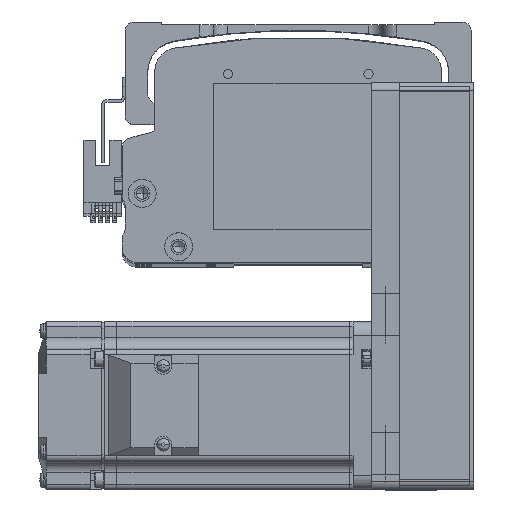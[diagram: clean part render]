
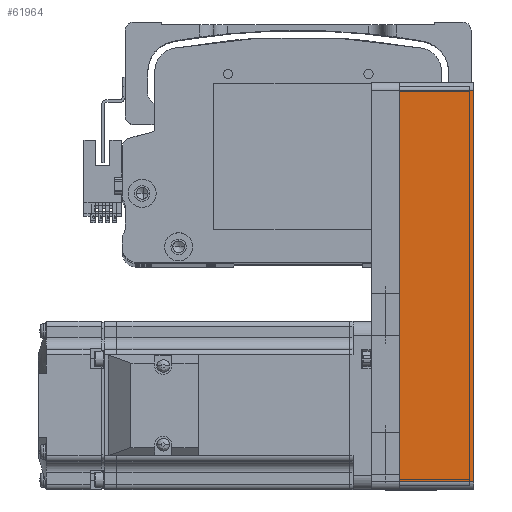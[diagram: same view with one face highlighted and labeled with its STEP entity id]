
A CAD part, top view. The second image highlights one B-rep face of the part: STEP entity #61964.
In plain terms, the highlighted planar face has unit normal (0, 0, 1) as drawn and (0, -1, 0) by its records, which use the part's own axes.
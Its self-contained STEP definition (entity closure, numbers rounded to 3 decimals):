
#2810 = EDGE_CURVE ( 'NONE', #80365, #3244, #55420, .T. ) ;
#3244 = VERTEX_POINT ( 'NONE', #70744 ) ;
#4485 = EDGE_CURVE ( 'NONE', #58597, #80365, #77908, .T. ) ;
#4772 = CARTESIAN_POINT ( 'NONE',  ( 72.5, -30., 26.5 ) ) ;
#11384 = CARTESIAN_POINT ( 'NONE',  ( -69.5, -30., 26.5 ) ) ;
#13730 = VECTOR ( 'NONE', #49283, 1000. ) ;
#17157 = VERTEX_POINT ( 'NONE', #34798 ) ;
#23127 = EDGE_CURVE ( 'NONE', #17157, #58597, #51478, .T. ) ;
#25872 = DIRECTION ( 'NONE',  ( 0., 1., 0. ) ) ;
#34798 = CARTESIAN_POINT ( 'NONE',  ( -69.5, -30., 26.5 ) ) ;
#39750 = ORIENTED_EDGE ( 'NONE', *, *, #56990, .F. ) ;
#41558 = DIRECTION ( 'NONE',  ( 1., 0., 0. ) ) ;
#46826 = CARTESIAN_POINT ( 'NONE',  ( 69.5, -30., 26.5 ) ) ;
#49283 = DIRECTION ( 'NONE',  ( 1., 0., 0. ) ) ;
#49478 = VECTOR ( 'NONE', #75044, 1000. ) ;
#51478 = LINE ( 'NONE', #11384, #49478 ) ;
#55420 = LINE ( 'NONE', #46826, #72313 ) ;
#56990 = EDGE_CURVE ( 'NONE', #17157, #3244, #62472, .T. ) ;
#58597 = VERTEX_POINT ( 'NONE', #61295 ) ;
#59806 = FACE_OUTER_BOUND ( 'NONE', #79106, .T. ) ;
#59991 = CARTESIAN_POINT ( 'NONE',  ( 69.5, -30., 0. ) ) ;
#61033 = VECTOR ( 'NONE', #41558, 1000. ) ;
#61295 = CARTESIAN_POINT ( 'NONE',  ( -69.5, -30., 0. ) ) ;
#61964 = ADVANCED_FACE ( 'NONE', ( #59806 ), #70063, .F. ) ;
#62472 = LINE ( 'NONE', #4772, #13730 ) ;
#63957 = CARTESIAN_POINT ( 'NONE',  ( 72.5, -30., 26.5 ) ) ;
#70063 = PLANE ( 'NONE',  #76074 ) ;
#70329 = DIRECTION ( 'NONE',  ( -1., 0., 0. ) ) ;
#70410 = ORIENTED_EDGE ( 'NONE', *, *, #2810, .T. ) ;
#70744 = CARTESIAN_POINT ( 'NONE',  ( 69.5, -30., 26.5 ) ) ;
#72313 = VECTOR ( 'NONE', #78214, 1000. ) ;
#72959 = CARTESIAN_POINT ( 'NONE',  ( 72.5, -30., 0. ) ) ;
#75044 = DIRECTION ( 'NONE',  ( 0., 0., -1. ) ) ;
#76074 = AXIS2_PLACEMENT_3D ( 'NONE', #63957, #25872, #70329 ) ;
#77908 = LINE ( 'NONE', #72959, #61033 ) ;
#78214 = DIRECTION ( 'NONE',  ( 0., 0., 1. ) ) ;
#79106 = EDGE_LOOP ( 'NONE', ( #82028, #70410, #39750, #80180 ) ) ;
#80180 = ORIENTED_EDGE ( 'NONE', *, *, #23127, .T. ) ;
#80365 = VERTEX_POINT ( 'NONE', #59991 ) ;
#82028 = ORIENTED_EDGE ( 'NONE', *, *, #4485, .T. ) ;
